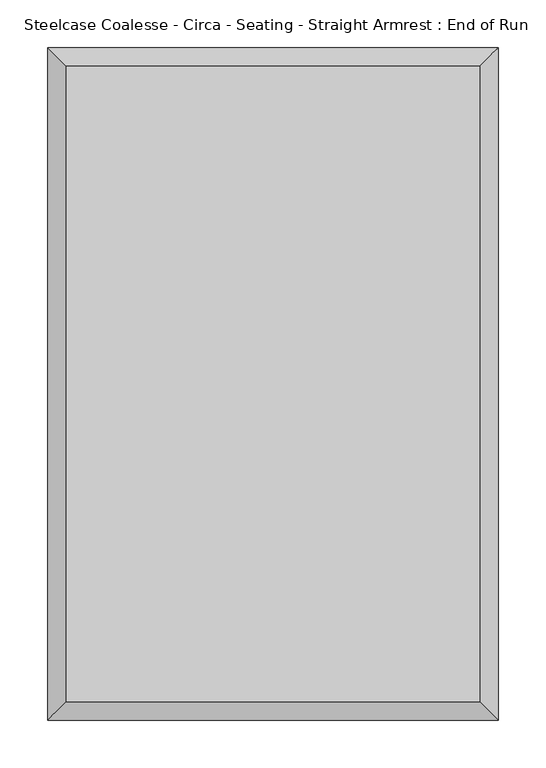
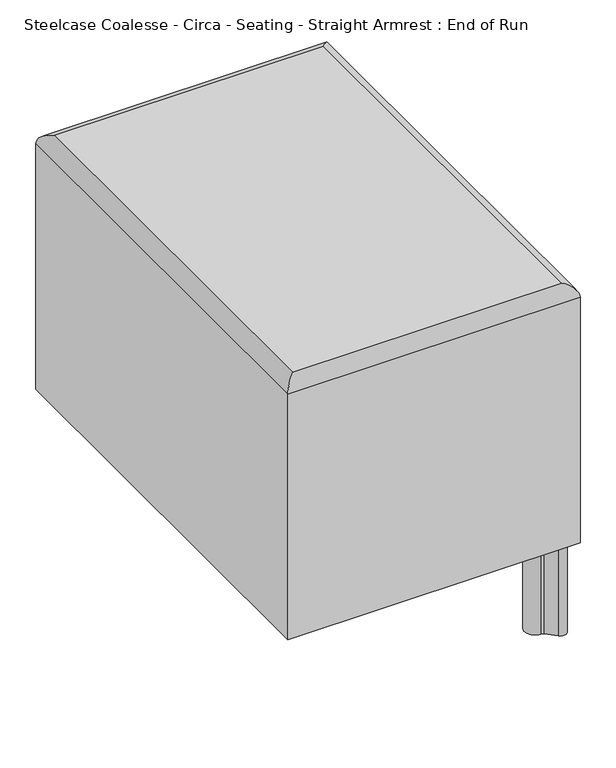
"""IFC4 building model written with IfcOpenShell, lengths in millimetres: furniture geometry, Steelcase Coalesse - Circa - Seating - Straight Armrest : End of Run."""

from ifc_helpers import new_model, si_unit, point, frame, frame_2d, origin, origin_with_axes, place, context, project, spatial, polyline, circle_curve, ellipse_curve, trimmed, segment, composite_curve, outline, extrude, source, transform, mapped, element, save
from ifc_brep_helpers import plane_surface, cylinder_surface, advanced_brep


def steelcase_coalesse_circa_seating_straight_armrest_end_of_run_a4ea1394(model_context):
    return source(origin(), model_context, "Body", "SolidModel", [
        extrude(outline(composite_curve([segment(trimmed(circle_curve(frame_2d((-236.7447713, -465.9205646)), 6.5532893), [point((-232.2834158, -461.1203659))], [point((-236.7447713, -459.3672753))], True, "CARTESIAN"), True, "CONTINUOUS"), segment(trimmed(circle_curve(frame_2d((-236.7447713, -442.517141)), 16.8501343), [point((-236.7447713, -459.3672753))], [point((-219.8946371, -442.517141))], False, "CARTESIAN"), True, "CONTINUOUS"), segment(trimmed(circle_curve(frame_2d((-213.3421435, -442.517141)), 6.5524935), [point((-219.8946371, -442.517141))], [point((-218.1412557, -446.9784966))], True, "CARTESIAN"), True, "CONTINUOUS"), segment(polyline([(-218.1412557, -446.9784966), (-203.7966415, -461.3306686)]), True, "CONTINUOUS"), segment(trimmed(circle_curve(frame_2d((-210.8660219, -468.3963264)), 9.9949818), [point((-203.7966415, -461.3306686))], [point((-217.9319662, -475.4654206))], False, "CARTESIAN"), True, "CONTINUOUS"), segment(polyline([(-217.9319662, -475.4654206), (-232.2834158, -461.1203659)]), True, "CONTINUOUS")], self_intersect=False)), origin_with_axes(), (0.0, 0.0, 1.0), 159.3946494),
        extrude(outline(composite_curve([segment(polyline([(-232.2834158, 187.4162109), (-217.9319662, 201.7612655)]), True, "CONTINUOUS"), segment(trimmed(circle_curve(frame_2d((-210.8660219, 194.6921713)), 9.9949818), [point((-217.9319662, 201.7612655))], [point((-203.7966415, 187.6265135))], False, "CARTESIAN"), True, "CONTINUOUS"), segment(polyline([(-203.7966415, 187.6265135), (-218.1412557, 173.2743415)]), True, "CONTINUOUS"), segment(trimmed(circle_curve(frame_2d((-213.3421435, 168.8129859)), 6.5524935), [point((-218.1412557, 173.2743415))], [point((-219.8946371, 168.8129859))], True, "CARTESIAN"), True, "CONTINUOUS"), segment(trimmed(circle_curve(frame_2d((-236.7447713, 168.8129859)), 16.8501343), [point((-219.8946371, 168.8129859))], [point((-236.7447713, 185.6631202))], False, "CARTESIAN"), True, "CONTINUOUS"), segment(trimmed(circle_curve(frame_2d((-236.7447713, 192.2164095)), 6.5532893), [point((-236.7447713, 185.6631202))], [point((-232.2834158, 187.4162109))], True, "CARTESIAN"), True, "CONTINUOUS")], self_intersect=False)), origin_with_axes(), (0.0, 0.0, 1.0), 159.3946494),
        advanced_brep(
        [(-663.917922, -489.9987389, 578.64375), (-663.917922, -489.9987389, 158.75), (-190.842922, -489.9987389, 158.75), (-190.842922, -489.9987389, 578.64375), (-209.892922, -470.9487389, 597.69375), (-644.867922, -470.9487389, 597.69375), (-190.842922, 216.2403236, 158.75), (-190.842922, 216.2403236, 578.64375), (-209.892922, 197.1903236, 597.69375), (-663.917922, 216.2403236, 158.75), (-663.917922, 216.2403236, 578.64375), (-644.867922, 197.1903236, 597.69375)],
        [
            (0, 1),
            (1, 2),
            (2, 3),
            (3, 0),
            (3, 4, ellipse_curve(frame((-209.892922, -470.9487389, 578.64375), z_axis=(-0.7071067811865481, -0.7071067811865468, 0.0), x_axis=(-0.707106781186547, 0.7071067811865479, 0.0)), 26.9407684, 19.05)),
            (4, 5),
            (5, 0, ellipse_curve(frame((-644.867922, -470.9487389, 578.64375), z_axis=(0.7071067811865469, -0.7071067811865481, 0.0), x_axis=(-0.7071067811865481, -0.7071067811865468, 0.0)), 26.9407684, 19.05)),
            (2, 6),
            (6, 7),
            (7, 3),
            (7, 8, ellipse_curve(frame((-209.892922, 197.1903236, 578.64375), z_axis=(0.7071067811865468, -0.7071067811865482, 0.0), x_axis=(-0.7071067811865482, -0.7071067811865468, 0.0)), 26.9407684, 19.05)),
            (8, 4),
            (6, 9),
            (9, 10),
            (10, 7),
            (10, 11, ellipse_curve(frame((-644.867922, 197.1903236, 578.64375), z_axis=(0.7071067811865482, 0.7071067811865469, 0.0), x_axis=(0.7071067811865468, -0.7071067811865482, 0.0)), 26.9407684, 19.05)),
            (11, 8),
            (1, 9),
            (0, 10),
            (5, 11),
        ],
        [
            plane_surface(frame((-663.917922, -489.9987389, 158.75), z_axis=(0.0, -1.0, 0.0), x_axis=(1.0, 0.0, 0.0))),
            cylinder_surface(frame((-663.917922, -470.9487389, 578.64375), z_axis=(-1.0, 0.0, 0.0), x_axis=(0.0, 1.0, 0.0)), 19.05),
            plane_surface(frame((-190.842922, -489.9987389, 158.75), z_axis=(1.0, 0.0, 0.0), x_axis=(0.0, 1.0, 0.0))),
            cylinder_surface(frame((-209.892922, -489.9987389, 578.64375), z_axis=(0.0, -1.0, 0.0), x_axis=(-1.0, 0.0, 0.0)), 19.05),
            plane_surface(frame((-190.842922, 216.2403236, 158.75), z_axis=(0.0, 1.0, 0.0), x_axis=(-1.0, 0.0, 0.0))),
            cylinder_surface(frame((-190.842922, 197.1903236, 578.64375), z_axis=(1.0, 0.0, 0.0), x_axis=(0.0, -1.0, 0.0)), 19.05),
            plane_surface(frame((-633.884663, 186.2070646, 158.75), z_axis=(0.0, 0.0, -1.0), x_axis=(0.0, -1.0, 0.0))),
            plane_surface(frame((-663.917922, 216.2403236, 158.75), z_axis=(-1.0, 0.0, 0.0), x_axis=(0.0, -1.0, 0.0))),
            cylinder_surface(frame((-644.867922, 216.2403236, 578.64375), z_axis=(0.0, 1.0, 0.0), x_axis=(1.0, 0.0, 0.0)), 19.05),
            plane_surface(frame((-644.867922, 197.1903236, 597.69375), z_axis=(0.0, 0.0, 1.0), x_axis=(0.0, -1.0, 0.0))),
        ],
        [
            (0, [[1, 2, 3, 4]]),
            (1, [[-4, 5, 6, 7]]),
            (2, [[-3, 8, 9, 10]]),
            (3, [[-5, -10, 11, 12]]),
            (4, [[-9, 13, 14, 15]]),
            (5, [[-11, -15, 16, 17]]),
            (6, [[-2, 18, -13, -8]]),
            (7, [[-1, 19, -14, -18]]),
            (8, [[-7, 20, -16, -19]]),
            (9, [[-6, -12, -17, -20]]),
        ],
    ),
    ])


if __name__ == "__main__":
    model = new_model("IFC4")
    model_context = context("Model", 3, world=origin())
    ifc_project = project(units=[si_unit("LENGTHUNIT", "METRE", prefix="MILLI")], contexts=[model_context])
    site = spatial("IfcSite", under=ifc_project)
    building = spatial("IfcBuilding", under=site)
    placement = place(None, origin())
    steelcase_coalesse_circa_seating_straight_armrest_end_of_run_shape = steelcase_coalesse_circa_seating_straight_armrest_end_of_run_a4ea1394(model_context)
    element("IfcFurniture", 1, ObjectType="Steelcase Coalesse - Circa - Seating - Straight Armrest : End of Run", at=placement, inside=building, context=model_context, shape_type="MappedRepresentation", body=[
        mapped(steelcase_coalesse_circa_seating_straight_armrest_end_of_run_shape, transform((0.0, 0.0, 0.0), x_axis=(1.0, 0.0, 0.0), y_axis=(0.0, 1.0, 0.0), z_axis=(0.0, 0.0, 1.0))),
    ])
    save(model, "model.ifc")
